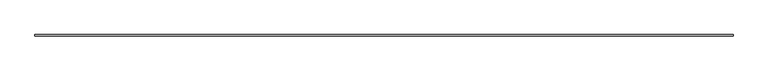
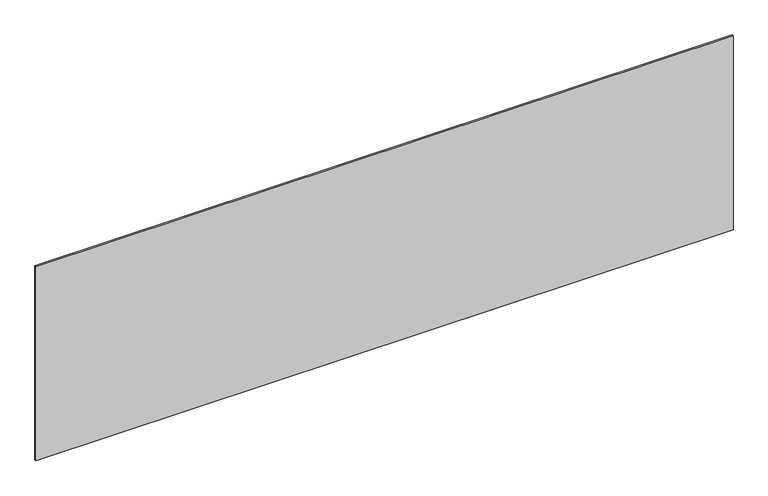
"""IFC4 building model written with IfcOpenShell, lengths in millimetres: plate geometry, システム パネル : 標準."""

from ifc_helpers import new_model, si_unit, origin, origin_with_axes, place, context, project, spatial, polyline, outline, extrude, source, transform, mapped, element, save


def plate_ad73517c(model_context):
    return source(origin(), model_context, "Body", "SweptSolid", [
        extrude(outline(polyline([(2264.1666667, -5.0), (-2264.1666667, -5.0), (-2264.1666667, 5.0), (2264.1666667, 5.0), (2264.1666667, -5.0)])), origin_with_axes(), (0.0, 0.0, 1.0), 1331.9755531),
    ])


if __name__ == "__main__":
    model = new_model("IFC4")
    model_context = context("Model", 3, world=origin())
    ifc_project = project(units=[si_unit("LENGTHUNIT", "METRE", prefix="MILLI")], contexts=[model_context])
    site = spatial("IfcSite", under=ifc_project)
    building = spatial("IfcBuilding", under=site)
    placement = place(None, origin())
    plate_shape = plate_ad73517c(model_context)
    element("IfcPlate", 1, ObjectType="システム パネル : 標準", at=placement, inside=building, context=model_context, shape_type="MappedRepresentation", body=[
        mapped(plate_shape, transform((0.0, 0.0, 0.0), x_axis=(1.0, 0.0, 0.0), y_axis=(0.0, 1.0, 0.0), z_axis=(0.0, 0.0, 1.0))),
    ])
    save(model, "model.ifc")
